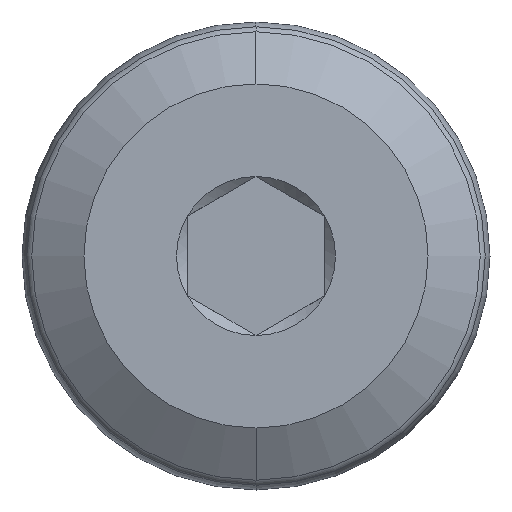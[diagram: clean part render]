
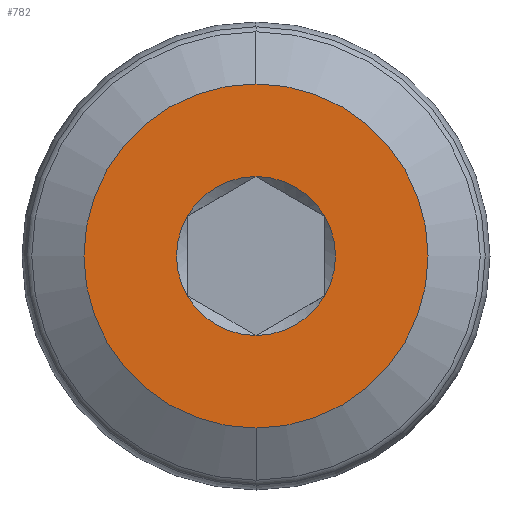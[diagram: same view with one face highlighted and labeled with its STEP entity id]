
A CAD part, left-side view. The second image highlights one B-rep face of the part: STEP entity #782.
In plain terms, the highlighted planar face has unit normal (-1, 0, 0).
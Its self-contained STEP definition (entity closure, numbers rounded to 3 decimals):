
#8 = AXIS2_PLACEMENT_3D ( 'NONE', #612, #263, #444 ) ;
#36 = EDGE_CURVE ( 'NONE', #75, #452, #506, .T. ) ;
#41 = CARTESIAN_POINT ( 'NONE',  ( 0., 0., 1.155 ) ) ;
#45 = AXIS2_PLACEMENT_3D ( 'NONE', #774, #230, #235 ) ;
#52 = CARTESIAN_POINT ( 'NONE',  ( 0., 0., 0. ) ) ;
#58 = DIRECTION ( 'NONE',  ( 0., 0., -1. ) ) ;
#75 = VERTEX_POINT ( 'NONE', #357 ) ;
#88 = EDGE_CURVE ( 'NONE', #186, #322, #330, .T. ) ;
#114 = EDGE_CURVE ( 'NONE', #452, #186, #254, .T. ) ;
#118 = EDGE_CURVE ( 'NONE', #556, #75, #169, .T. ) ;
#119 = AXIS2_PLACEMENT_3D ( 'NONE', #198, #544, #655 ) ;
#149 = DIRECTION ( 'NONE',  ( -1., 0., 0. ) ) ;
#169 = CIRCLE ( 'NONE', #530, 1.155 ) ;
#172 = CARTESIAN_POINT ( 'NONE',  ( 0., 0., 0. ) ) ;
#180 = AXIS2_PLACEMENT_3D ( 'NONE', #460, #393, #391 ) ;
#186 = VERTEX_POINT ( 'NONE', #609 ) ;
#198 = CARTESIAN_POINT ( 'NONE',  ( 0., 0., 0. ) ) ;
#204 = AXIS2_PLACEMENT_3D ( 'NONE', #224, #149, #763 ) ;
#217 = CIRCLE ( 'NONE', #8, 1.155 ) ;
#224 = CARTESIAN_POINT ( 'NONE',  ( 0., 2.5, 0. ) ) ;
#225 = CARTESIAN_POINT ( 'NONE',  ( 0., 0., 0. ) ) ;
#230 = DIRECTION ( 'NONE',  ( 1., 0., 0. ) ) ;
#235 = DIRECTION ( 'NONE',  ( 0., 0., -1. ) ) ;
#254 = CIRCLE ( 'NONE', #45, 1.155 ) ;
#255 = CARTESIAN_POINT ( 'NONE',  ( 0., 0., 2.5 ) ) ;
#263 = DIRECTION ( 'NONE',  ( 1., 0., 0. ) ) ;
#277 = DIRECTION ( 'NONE',  ( 1., 0., 0. ) ) ;
#282 = VERTEX_POINT ( 'NONE', #255 ) ;
#287 = VERTEX_POINT ( 'NONE', #441 ) ;
#291 = CIRCLE ( 'NONE', #180, 1.155 ) ;
#295 = ORIENTED_EDGE ( 'NONE', *, *, #588, .F. ) ;
#299 = CARTESIAN_POINT ( 'NONE',  ( 0., 1., -0.577 ) ) ;
#322 = VERTEX_POINT ( 'NONE', #299 ) ;
#328 = CARTESIAN_POINT ( 'NONE',  ( 0., 0., -2.5 ) ) ;
#330 = CIRCLE ( 'NONE', #373, 1.155 ) ;
#357 = CARTESIAN_POINT ( 'NONE',  ( 0., -1., 0.577 ) ) ;
#360 = EDGE_CURVE ( 'NONE', #322, #287, #291, .T. ) ;
#370 = ORIENTED_EDGE ( 'NONE', *, *, #360, .T. ) ;
#373 = AXIS2_PLACEMENT_3D ( 'NONE', #52, #592, #466 ) ;
#374 = CIRCLE ( 'NONE', #641, 2.5 ) ;
#391 = DIRECTION ( 'NONE',  ( 0., 0., -1. ) ) ;
#393 = DIRECTION ( 'NONE',  ( 1., 0., 0. ) ) ;
#394 = ORIENTED_EDGE ( 'NONE', *, *, #88, .T. ) ;
#411 = DIRECTION ( 'NONE',  ( 1., 0., 0. ) ) ;
#423 = AXIS2_PLACEMENT_3D ( 'NONE', #172, #277, #585 ) ;
#441 = CARTESIAN_POINT ( 'NONE',  ( 0., 1., 0.577 ) ) ;
#443 = ORIENTED_EDGE ( 'NONE', *, *, #118, .T. ) ;
#444 = DIRECTION ( 'NONE',  ( 0., 0., -1. ) ) ;
#452 = VERTEX_POINT ( 'NONE', #630 ) ;
#458 = ORIENTED_EDGE ( 'NONE', *, *, #36, .T. ) ;
#459 = CIRCLE ( 'NONE', #119, 2.5 ) ;
#460 = CARTESIAN_POINT ( 'NONE',  ( 0., 0., 0. ) ) ;
#466 = DIRECTION ( 'NONE',  ( 0., 0., -1. ) ) ;
#476 = CARTESIAN_POINT ( 'NONE',  ( 0., 0., 0. ) ) ;
#490 = VERTEX_POINT ( 'NONE', #328 ) ;
#506 = CIRCLE ( 'NONE', #423, 1.155 ) ;
#530 = AXIS2_PLACEMENT_3D ( 'NONE', #476, #717, #58 ) ;
#544 = DIRECTION ( 'NONE',  ( 1., 0., 0. ) ) ;
#556 = VERTEX_POINT ( 'NONE', #41 ) ;
#571 = FACE_OUTER_BOUND ( 'NONE', #731, .T. ) ;
#575 = PLANE ( 'NONE',  #204 ) ;
#585 = DIRECTION ( 'NONE',  ( 0., 0., -1. ) ) ;
#588 = EDGE_CURVE ( 'NONE', #490, #282, #374, .T. ) ;
#592 = DIRECTION ( 'NONE',  ( 1., 0., 0. ) ) ;
#609 = CARTESIAN_POINT ( 'NONE',  ( 0., 0., -1.155 ) ) ;
#612 = CARTESIAN_POINT ( 'NONE',  ( 0., 0., 0. ) ) ;
#630 = CARTESIAN_POINT ( 'NONE',  ( 0., -1., -0.577 ) ) ;
#641 = AXIS2_PLACEMENT_3D ( 'NONE', #225, #411, #708 ) ;
#655 = DIRECTION ( 'NONE',  ( 0., 0., -1. ) ) ;
#664 = ORIENTED_EDGE ( 'NONE', *, *, #114, .T. ) ;
#672 = ORIENTED_EDGE ( 'NONE', *, *, #719, .F. ) ;
#708 = DIRECTION ( 'NONE',  ( 0., 0., -1. ) ) ;
#717 = DIRECTION ( 'NONE',  ( 1., 0., 0. ) ) ;
#719 = EDGE_CURVE ( 'NONE', #282, #490, #459, .T. ) ;
#728 = EDGE_CURVE ( 'NONE', #287, #556, #217, .T. ) ;
#731 = EDGE_LOOP ( 'NONE', ( #295, #672 ) ) ;
#741 = ORIENTED_EDGE ( 'NONE', *, *, #728, .T. ) ;
#762 = EDGE_LOOP ( 'NONE', ( #741, #443, #458, #664, #394, #370 ) ) ;
#763 = DIRECTION ( 'NONE',  ( 0., 0., 1. ) ) ;
#768 = FACE_BOUND ( 'NONE', #762, .T. ) ;
#774 = CARTESIAN_POINT ( 'NONE',  ( 0., 0., 0. ) ) ;
#782 = ADVANCED_FACE ( 'NONE', ( #768, #571 ), #575, .T. ) ;
